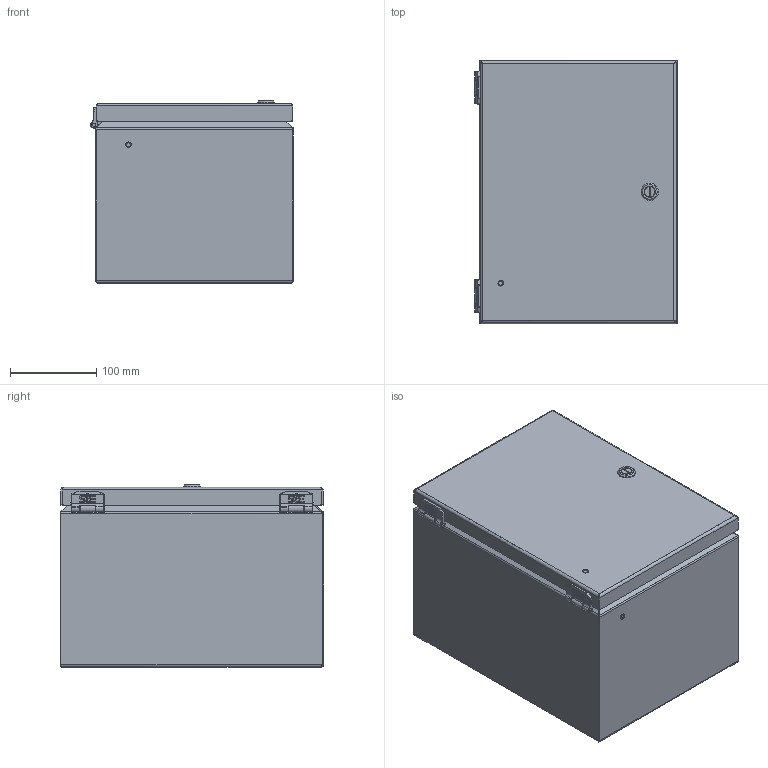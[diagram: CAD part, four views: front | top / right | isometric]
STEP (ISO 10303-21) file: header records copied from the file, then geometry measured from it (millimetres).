
FILE_DESCRIPTION((''),'2;1');
FILE_NAME('MODEL-097_ASM','2025-08-15T09:24:38',('johnh'),('SAGINAW CONTROL & ENGINEERING'),'CREO PARAMETRIC BY PTC INC, 2021284','CREO PARAMETRIC BY PTC INC, 2021284','');
FILE_SCHEMA(('AUTOMOTIVE_DESIGN { 1 0 10303 214 1 1 1 1 }'));
Length unit declared in the file: inch
Products named in the file (25): MODEL-097-BDY; 112643-BOX-LEAF; 112643-BOX-LEAF-STUD; 112643-BOX_ASM; 112643-DOOR-LEAF; 112643-DOOR-LEAF-STUD; 112643-DOOR_ASM; 112643-PIN; 112643_ASM; 113152; MODEL-097-DR; 100097; 100012; 112987_SHAFT; 112987_SCREW; 112987_CAM; 112987_INSERT; 112987_NUT; 112987_ASM; MODEL-097-GSKT; 120706; CH-ELJ_SUBPANEL; 102479; CH-ELJ_SUBPANEL-SUBASSEMBLY_ASM; MODEL-097_ASM
Assembly tree (35 placements, depth 4):
  MODEL-097_ASM
    MODEL-097-BDY
    112643_ASM  x2
      112643-BOX_ASM
        112643-BOX-LEAF
        112643-BOX-LEAF-STUD
      112643-DOOR_ASM
        112643-DOOR-LEAF
        112643-DOOR-LEAF-STUD
      112643-PIN
    113152  x4
    MODEL-097-DR
    100097  x2
    100012  x4
    112987_ASM
      112987_SHAFT
      112987_SCREW
      112987_CAM
      112987_INSERT
      112987_NUT
    MODEL-097-GSKT
    120706
    CH-ELJ_SUBPANEL-SUBASSEMBLY_ASM
      CH-ELJ_SUBPANEL
      102479  x4
Bounding box: 234.2 x 304.9 x 211 mm (x, y, z)
Volume: 733122 mm3; surface area: 911229.7 mm2
Topology: 33 solids, 35 shells, 3292 faces, 8479 edges, 5213 vertices
Faces by surface type: plane 1040, cylinder 925, bspline 862, cone 341, torus 114, sphere 10
Entity records: 116670 total; most frequent: CARTESIAN_POINT 59591, ORIENTED_EDGE 8818, DIRECTION 7215, PRESENTATION_STYLE_ASSIGNMENT 4643, STYLED_ITEM 4633, CURVE_STYLE 4409, EDGE_CURVE 4409, VERTEX_POINT 2751
